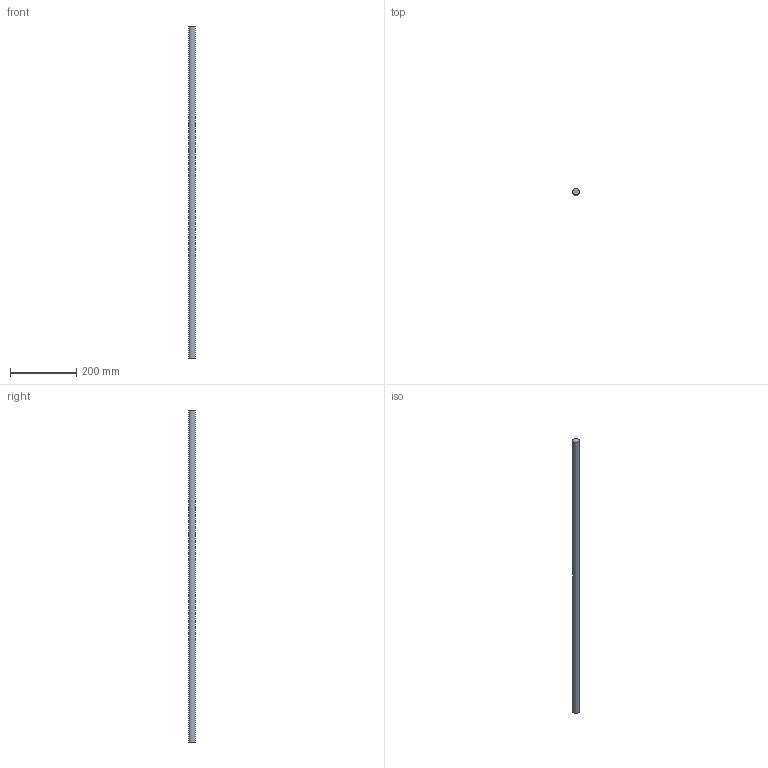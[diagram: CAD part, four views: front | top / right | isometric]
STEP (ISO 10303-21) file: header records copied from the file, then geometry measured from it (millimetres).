
FILE_DESCRIPTION(/* description */ (''),/* implementation_level */ '2;1');
FILE_NAME(/* name */ 'C:\Users\David\Desktop\stepFiles\Profilfuehrung\WF20x1000.stp',/* time_stamp */ '2018-06-24T15:49:04+02:00',/* author */ ('David'),/* organization */ (''),/* preprocessor_version */ 'ST-DEVELOPER v17',/* originating_system */ 'Autodesk Inventor 2019',/* authorisation */ '');
FILE_SCHEMA (('CONFIG_CONTROL_DESIGN','AUTOMOTIVE_DESIGN { 1 0 10303 214 3 1 1 }'));
Length unit declared in the file: millimetre
Products named in the file (1): Wellenfuehrung
Bounding box: 20 x 20 x 1000 mm (x, y, z)
Volume: 314159.3 mm3; surface area: 63460.2 mm2
Topology: 1 solids, 1 shells, 3 faces, 3 edges, 2 vertices
Faces by surface type: plane 2, cylinder 1
Full cylindrical faces by diameter (mm): 20 x1
Entity records: 98 total; most frequent: DIRECTION 13, CARTESIAN_POINT 9, ORIENTED_EDGE 6, AXIS2_PLACEMENT_3D 6, FACE_OUTER_BOUND 3, EDGE_LOOP 3, EDGE_CURVE 3, ADVANCED_FACE 3
